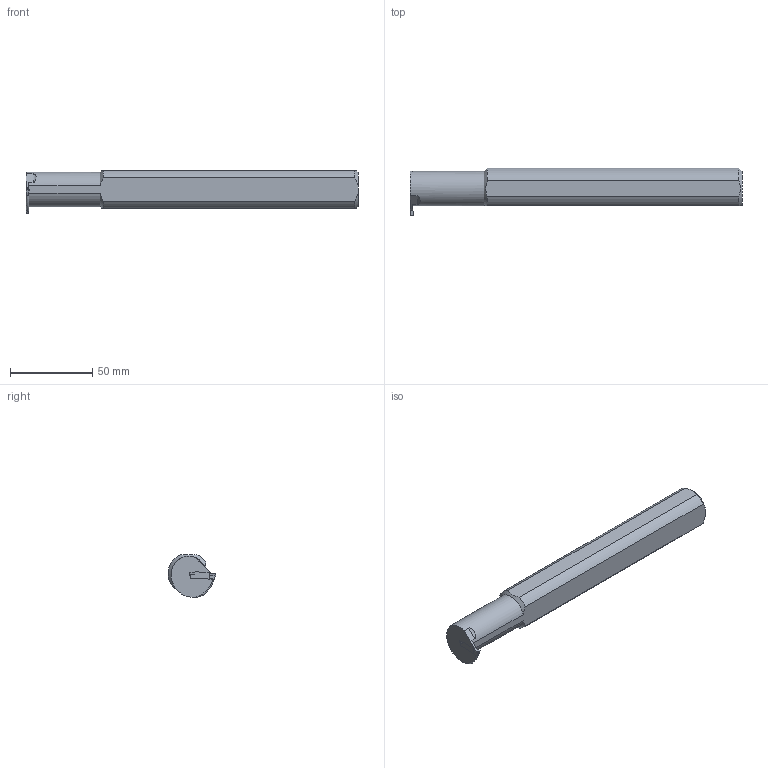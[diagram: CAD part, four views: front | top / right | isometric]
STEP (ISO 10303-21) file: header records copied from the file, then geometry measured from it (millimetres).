
FILE_DESCRIPTION(/* description */ (''),/* implementation_level */ '2;1');
FILE_NAME(/* name */ 'MGIVR2925-2-HAAS.stp',/* time_stamp */ '2021-10-15T12:12:49+09:00',/* author */ (''),/* organization */ (''),/* preprocessor_version */ 'ST-DEVELOPER v16.7',/* originating_system */ 'SIEMENS PLM Software NX 1946',/* authorisation */ '');
FILE_SCHEMA (('AUTOMOTIVE_DESIGN { 1 0 10303 214 3 1 1 1 }'));
Length unit declared in the file: millimetre
Products named in the file (1): user41A06993zsci
Bounding box: 201.45 x 29 x 25.88 mm (x, y, z)
Volume: 86833.3 mm3; surface area: 16207.8 mm2
Topology: 2 solids, 2 shells, 57 faces, 147 edges, 95 vertices
Faces by surface type: plane 32, cylinder 22, cone 2, torus 1
Entity records: 1862 total; most frequent: CARTESIAN_POINT 403, ORIENTED_EDGE 294, DIRECTION 293, EDGE_CURVE 147, AXIS2_PLACEMENT_3D 98, LINE 97, VECTOR 97, VERTEX_POINT 94
